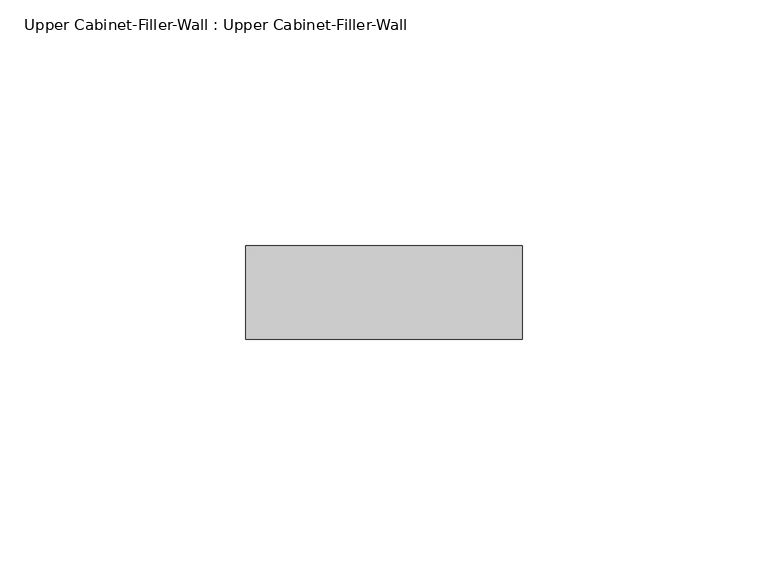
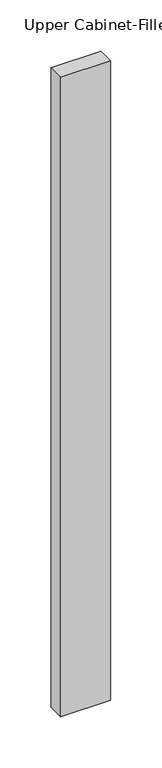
"""IFC4 building model written with IfcOpenShell, lengths in millimetres: furniture geometry, Upper Cabinet-Filler-Wall : Upper Cabinet-Filler-Wall."""

from ifc_helpers import new_model, si_unit, frame, origin, place, context, project, spatial, polyline, outline, extrude, source, transform, mapped, element, save


def upper_cabinet_filler_wall_upper_cabinet_filler_wall_ebdf5134(model_context):
    return source(origin(), model_context, "Body", "SweptSolid", [
        extrude(outline(polyline([(1.6388124, -342.9), (57.9035132, -342.9), (57.9035132, -361.95), (1.6388124, -361.95), (1.6388124, -342.9)])), frame((0.0, 0.0, 1371.6), z_axis=(0.0, 0.0, 1.0), x_axis=(1.0, 0.0, 0.0)), (0.0, 0.0, 1.0), 762.0),
    ])


if __name__ == "__main__":
    model = new_model("IFC4")
    model_context = context("Model", 3, world=origin())
    ifc_project = project(units=[si_unit("LENGTHUNIT", "METRE", prefix="MILLI")], contexts=[model_context])
    site = spatial("IfcSite", under=ifc_project)
    building = spatial("IfcBuilding", under=site)
    placement = place(None, origin())
    upper_cabinet_filler_wall_upper_cabinet_filler_wall_shape = upper_cabinet_filler_wall_upper_cabinet_filler_wall_ebdf5134(model_context)
    element("IfcFurniture", 1, ObjectType="Upper Cabinet-Filler-Wall : Upper Cabinet-Filler-Wall", at=placement, inside=building, context=model_context, shape_type="MappedRepresentation", body=[
        mapped(upper_cabinet_filler_wall_upper_cabinet_filler_wall_shape, transform((0.0, 0.0, 0.0), x_axis=(1.0, 0.0, 0.0), y_axis=(0.0, 1.0, 0.0), z_axis=(0.0, 0.0, 1.0))),
    ])
    save(model, "model.ifc")
